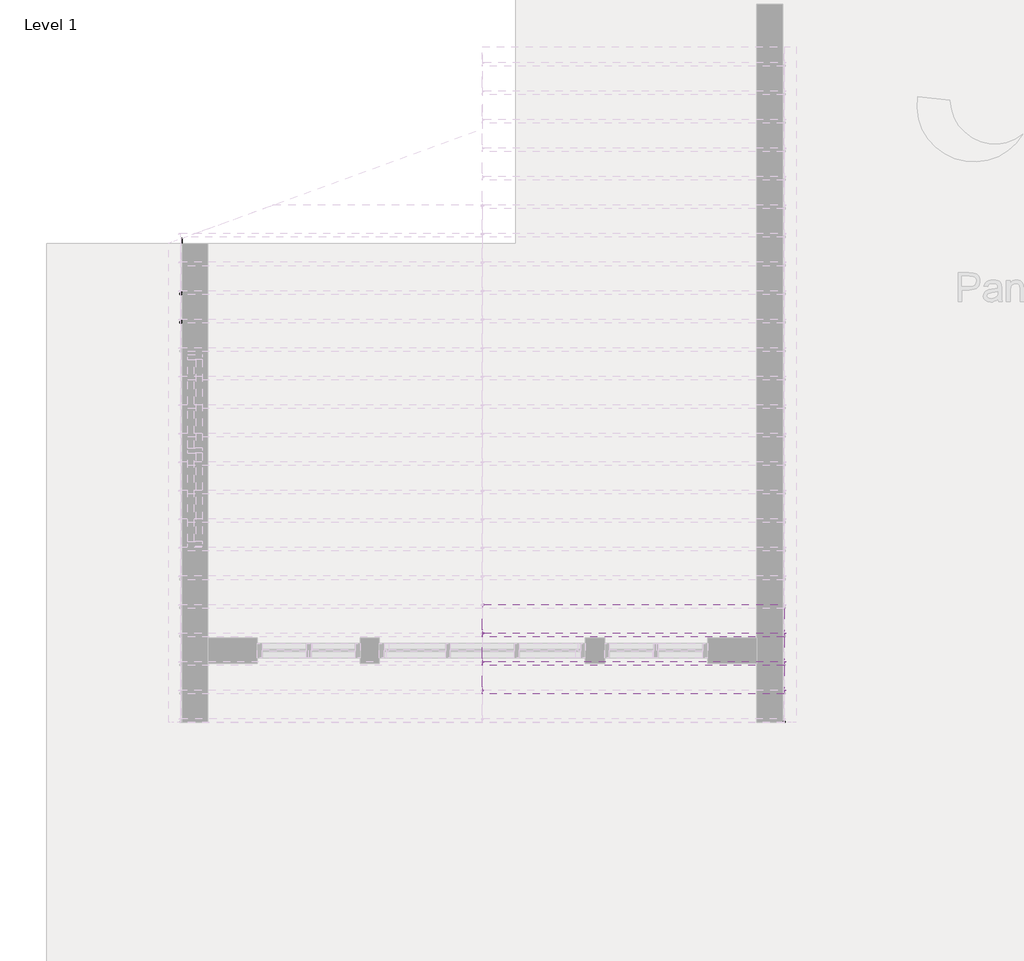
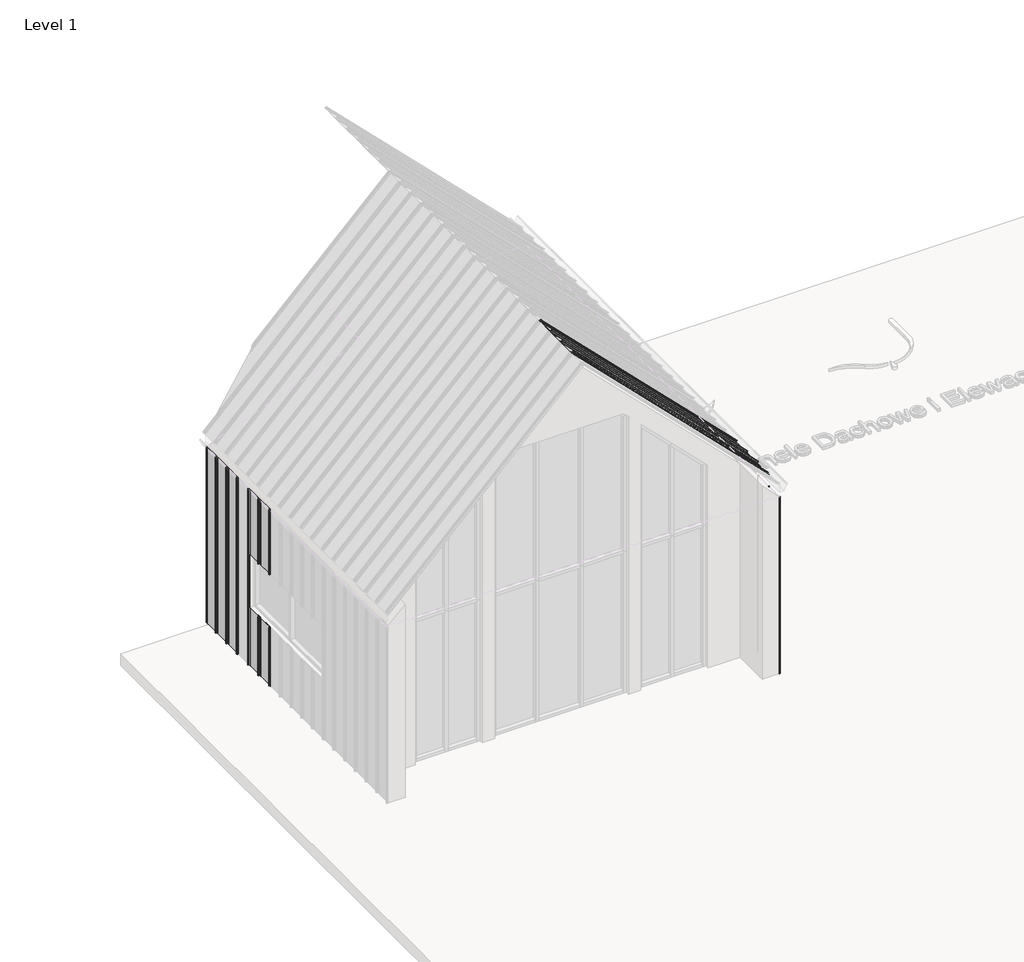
# One storey, part 5 of 24: 9 proxies.
"""IFC4 building model written with IfcOpenShell, lengths in millimetres."""

from ifc_helpers import new_model, si_unit, point, frame, frame_2d, origin, place, context, project, spatial, polyline, circle_curve, trimmed, segment, composite_curve, outline, extrude, transform, mapped, element, save
from components import aqua_slim_1cb284e8, aqua_slim_27351003

model = new_model("IFC4")

# Units and contexts
model_context = context("Model", 3, world=origin())
ifc_project = project(units=[si_unit("LENGTHUNIT", "METRE", prefix="MILLI")], contexts=[model_context])

# Site, building, storey
site = spatial("IfcSite", under=ifc_project)
building = spatial("IfcBuilding", under=site)
storey = spatial("IfcBuildingStorey", under=building, Name="Level 1", Elevation=0.0)

# Proxies
placement = place(None, origin())
element("IfcBuildingElementProxy", 1, Name="AQUAPLAST - Panel Dachowy i Elewacyjny Aqua Slim : Aqua Slim", ObjectType="AQUAPLAST - Panel Dachowy i Elewacyjny Aqua Slim : Aqua Slim", at=placement, inside=storey, context=model_context, shape_type="SweptSolid", body=[
    extrude(outline(polyline([(0.0, 227.2000503), (4454.0, 227.2000503), (4454.0, 0.0), (0.0, 0.0), (0.0, 227.2000503)])), frame((-5286.5167864, 9035.4302375, 6945.4435021), z_axis=(0.7071067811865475, 0.0, 0.7071067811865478), x_axis=(0.7071067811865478, 0.0, -0.7071067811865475)), (0.0, 0.0, 1.0), 0.8),
    extrude(outline(composite_curve([segment(polyline([(1.6, -36.6), (0.8, -40.1), (0.0, -40.1), (0.8000601, -36.6), (0.8000601, -12.7000752)]), True, "CONTINUOUS"), segment(trimmed(circle_curve(frame_2d((1.2999699, -12.7000752)), 0.4999098), [point((0.8000601, -12.7000752))], [point((1.2999699, -12.2001654))], False, "CARTESIAN"), True, "CONTINUOUS"), segment(polyline([(1.2999699, -12.2001654), (23.7003195, -12.2001654)]), True, "CONTINUOUS"), segment(trimmed(circle_curve(frame_2d((23.7003195, -11.6998422)), 0.5003233), [point((23.7003195, -12.2001654))], [point((24.2006428, -11.6998422))], True, "CARTESIAN"), True, "CONTINUOUS"), segment(polyline([(24.2006428, -11.6998422), (24.2006428, -1.2033228)]), True, "CONTINUOUS"), segment(trimmed(circle_curve(frame_2d((23.6993591, -1.2033228)), 0.5012837), [point((24.2006428, -1.2033228))], [point((23.6993591, -0.7020391))], True, "CARTESIAN"), True, "CONTINUOUS"), segment(polyline([(23.6993591, -0.7020391), (9.7850119, -0.7020391)]), True, "CONTINUOUS"), segment(trimmed(circle_curve(frame_2d((9.7850119, -1.6460516)), 0.9440125), [point((9.7850119, -0.7020391))], [point((8.9478642, -1.2097679))], True, "CARTESIAN"), True, "CONTINUOUS"), segment(trimmed(circle_curve(frame_2d((5.4137845, -0.6808077)), 3.5734462), [point((8.9478642, -1.2097679))], [point((1.8403383, -0.6808077))], False, "CARTESIAN"), True, "CONTINUOUS"), segment(polyline([(1.8403383, -0.6808077), (2.6405793, -0.6808077)]), True, "CONTINUOUS"), segment(trimmed(circle_curve(frame_2d((5.3847864, -0.6808077)), 2.7442071), [point((2.6405793, -0.6808077))], [point((8.1289934, -0.6808077))], True, "CARTESIAN"), True, "CONTINUOUS"), segment(trimmed(circle_curve(frame_2d((8.8039224, -0.6749544)), 0.6749543), [point((8.1289934, -0.6808077))], [point((8.8039224, 0.0))], False, "CARTESIAN"), True, "CONTINUOUS"), segment(polyline([(8.8039224, 0.0), (24.5, 0.0)]), True, "CONTINUOUS"), segment(trimmed(circle_curve(frame_2d((24.5, -0.5)), 0.5), [point((24.5, 0.0))], [point((25.0, -0.5))], False, "CARTESIAN"), True, "CONTINUOUS"), segment(polyline([(25.0, -0.5), (25.0, -12.5)]), True, "CONTINUOUS"), segment(trimmed(circle_curve(frame_2d((24.5, -12.5)), 0.5), [point((25.0, -12.5))], [point((24.5, -13.0))], False, "CARTESIAN"), True, "CONTINUOUS"), segment(polyline([(24.5, -13.0), (2.1, -13.0)]), True, "CONTINUOUS"), segment(trimmed(circle_curve(frame_2d((2.1, -13.5)), 0.5), [point((2.1, -13.0))], [point((1.6, -13.5))], True, "CARTESIAN"), True, "CONTINUOUS"), segment(polyline([(1.6, -13.5), (1.6, -36.6)]), True, "CONTINUOUS")], self_intersect=False)), frame((-2137.063183, 9302.7302878, 3795.9898987), z_axis=(-0.7071067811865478, 0.0, 0.7071067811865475), x_axis=(0.7071067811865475, 0.0, 0.7071067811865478)), (0.0, 0.0, 1.0), 4454.0),
    extrude(outline(composite_curve([segment(polyline([(0.8, 0.0), (0.0, 0.0), (0.0, 30.3277327)]), True, "CONTINUOUS"), segment(trimmed(circle_curve(frame_2d((0.7400208, 30.3277327)), 0.7400208), [point((0.0, 30.3277327))], [point((0.6241817, 31.0586308))], False, "CARTESIAN"), True, "CONTINUOUS"), segment(polyline([(0.6241817, 31.0586308), (18.4803327, 33.8886302)]), True, "CONTINUOUS"), segment(trimmed(circle_curve(frame_2d((18.1818617, 35.771861)), 1.9067363), [point((18.4803327, 33.8886302))], [point((19.1352298, 37.4231431))], True, "CARTESIAN"), True, "CONTINUOUS"), segment(polyline([(19.1352298, 37.4231431), (11.8934079, 40.3349068)]), True, "CONTINUOUS"), segment(trimmed(circle_curve(frame_2d((11.2676679, 38.7786343)), 1.6773594), [point((11.8934079, 40.3349068))], [point((9.7513874, 39.4958707))], True, "CARTESIAN"), True, "CONTINUOUS"), segment(trimmed(circle_curve(frame_2d((5.5014361, 41.5061979)), 4.7014361), [point((9.7513874, 39.4958707))], [point((0.8, 41.5061979))], False, "CARTESIAN"), True, "CONTINUOUS"), segment(polyline([(0.8, 41.5061979), (0.8, 69.1999497), (0.0, 72.6999497), (0.8, 72.6999497), (1.6, 69.1999497), (1.6, 41.3470224)]), True, "CONTINUOUS"), segment(trimmed(circle_curve(frame_2d((5.4667311, 41.3470224)), 3.8667311), [point((1.6, 41.3470224))], [point((9.0024093, 39.7815866))], True, "CARTESIAN"), True, "CONTINUOUS"), segment(trimmed(circle_curve(frame_2d((11.2676679, 38.7786343)), 2.4773594), [point((9.0024093, 39.7815866))], [point((12.1941629, 41.0762236))], False, "CARTESIAN"), True, "CONTINUOUS"), segment(polyline([(12.1941629, 41.0762236), (19.5352299, 38.1159634)]), True, "CONTINUOUS"), segment(trimmed(circle_curve(frame_2d((18.1818617, 35.771861)), 2.7067363), [point((19.5352299, 38.1159634))], [point((18.7653554, 33.1287651))], False, "CARTESIAN"), True, "CONTINUOUS"), segment(polyline([(18.7653554, 33.1287651), (1.3501315, 30.0958084)]), True, "CONTINUOUS"), segment(trimmed(circle_curve(frame_2d((1.4640676, 29.441588)), 0.6640676), [point((1.3501315, 30.0958084))], [point((0.8, 29.441588))], True, "CARTESIAN"), True, "CONTINUOUS"), segment(polyline([(0.8, 29.441588), (0.8, 0.0)]), True, "CONTINUOUS")], self_intersect=False)), frame((-2137.063183, 8962.7302878, 3795.9898987), z_axis=(-0.7071067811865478, 0.0, 0.7071067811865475), x_axis=(0.7071067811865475, 0.0, 0.7071067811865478)), (0.0, 0.0, 1.0), 4454.0),
])
element("IfcBuildingElementProxy", 2, Name="AQUAPLAST - Panel Dachowy i Elewacyjny Aqua Slim : Aqua Slim", ObjectType="AQUAPLAST - Panel Dachowy i Elewacyjny Aqua Slim : Aqua Slim", at=placement, inside=storey, context=model_context, shape_type="SweptSolid", body=[
    extrude(outline(polyline([(0.0, 227.2000503), (4454.0, 227.2000503), (4454.0, 0.0), (0.0, 0.0), (0.0, 227.2000503)])), frame((-5286.5167864, 9333.4302375, 6945.4435021), z_axis=(0.7071067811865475, 0.0, 0.7071067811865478), x_axis=(0.7071067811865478, 0.0, -0.7071067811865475)), (0.0, 0.0, 1.0), 0.8),
    extrude(outline(composite_curve([segment(polyline([(1.6, -36.6), (0.8, -40.1), (0.0, -40.1), (0.8000601, -36.6), (0.8000601, -12.7000752)]), True, "CONTINUOUS"), segment(trimmed(circle_curve(frame_2d((1.2999699, -12.7000752)), 0.4999098), [point((0.8000601, -12.7000752))], [point((1.2999699, -12.2001654))], False, "CARTESIAN"), True, "CONTINUOUS"), segment(polyline([(1.2999699, -12.2001654), (23.7003195, -12.2001654)]), True, "CONTINUOUS"), segment(trimmed(circle_curve(frame_2d((23.7003195, -11.6998422)), 0.5003233), [point((23.7003195, -12.2001654))], [point((24.2006428, -11.6998422))], True, "CARTESIAN"), True, "CONTINUOUS"), segment(polyline([(24.2006428, -11.6998422), (24.2006428, -1.2033228)]), True, "CONTINUOUS"), segment(trimmed(circle_curve(frame_2d((23.6993591, -1.2033228)), 0.5012837), [point((24.2006428, -1.2033228))], [point((23.6993591, -0.7020391))], True, "CARTESIAN"), True, "CONTINUOUS"), segment(polyline([(23.6993591, -0.7020391), (9.7850119, -0.7020391)]), True, "CONTINUOUS"), segment(trimmed(circle_curve(frame_2d((9.7850119, -1.6460516)), 0.9440125), [point((9.7850119, -0.7020391))], [point((8.9478642, -1.2097679))], True, "CARTESIAN"), True, "CONTINUOUS"), segment(trimmed(circle_curve(frame_2d((5.4137845, -0.6808077)), 3.5734462), [point((8.9478642, -1.2097679))], [point((1.8403383, -0.6808077))], False, "CARTESIAN"), True, "CONTINUOUS"), segment(polyline([(1.8403383, -0.6808077), (2.6405793, -0.6808077)]), True, "CONTINUOUS"), segment(trimmed(circle_curve(frame_2d((5.3847864, -0.6808077)), 2.7442071), [point((2.6405793, -0.6808077))], [point((8.1289934, -0.6808077))], True, "CARTESIAN"), True, "CONTINUOUS"), segment(trimmed(circle_curve(frame_2d((8.8039224, -0.6749544)), 0.6749543), [point((8.1289934, -0.6808077))], [point((8.8039224, 0.0))], False, "CARTESIAN"), True, "CONTINUOUS"), segment(polyline([(8.8039224, 0.0), (24.5, 0.0)]), True, "CONTINUOUS"), segment(trimmed(circle_curve(frame_2d((24.5, -0.5)), 0.5), [point((24.5, 0.0))], [point((25.0, -0.5))], False, "CARTESIAN"), True, "CONTINUOUS"), segment(polyline([(25.0, -0.5), (25.0, -12.5)]), True, "CONTINUOUS"), segment(trimmed(circle_curve(frame_2d((24.5, -12.5)), 0.5), [point((25.0, -12.5))], [point((24.5, -13.0))], False, "CARTESIAN"), True, "CONTINUOUS"), segment(polyline([(24.5, -13.0), (2.1, -13.0)]), True, "CONTINUOUS"), segment(trimmed(circle_curve(frame_2d((2.1, -13.5)), 0.5), [point((2.1, -13.0))], [point((1.6, -13.5))], True, "CARTESIAN"), True, "CONTINUOUS"), segment(polyline([(1.6, -13.5), (1.6, -36.6)]), True, "CONTINUOUS")], self_intersect=False)), frame((-2137.063183, 9600.7302878, 3795.9898987), z_axis=(-0.7071067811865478, 0.0, 0.7071067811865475), x_axis=(0.7071067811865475, 0.0, 0.7071067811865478)), (0.0, 0.0, 1.0), 4454.0),
    extrude(outline(composite_curve([segment(polyline([(0.8, 0.0), (0.0, 0.0), (0.0, 30.3277327)]), True, "CONTINUOUS"), segment(trimmed(circle_curve(frame_2d((0.7400208, 30.3277327)), 0.7400208), [point((0.0, 30.3277327))], [point((0.6241817, 31.0586308))], False, "CARTESIAN"), True, "CONTINUOUS"), segment(polyline([(0.6241817, 31.0586308), (18.4803327, 33.8886302)]), True, "CONTINUOUS"), segment(trimmed(circle_curve(frame_2d((18.1818617, 35.771861)), 1.9067363), [point((18.4803327, 33.8886302))], [point((19.1352298, 37.4231431))], True, "CARTESIAN"), True, "CONTINUOUS"), segment(polyline([(19.1352298, 37.4231431), (11.8934079, 40.3349068)]), True, "CONTINUOUS"), segment(trimmed(circle_curve(frame_2d((11.2676679, 38.7786343)), 1.6773594), [point((11.8934079, 40.3349068))], [point((9.7513874, 39.4958707))], True, "CARTESIAN"), True, "CONTINUOUS"), segment(trimmed(circle_curve(frame_2d((5.5014361, 41.5061979)), 4.7014361), [point((9.7513874, 39.4958707))], [point((0.8, 41.5061979))], False, "CARTESIAN"), True, "CONTINUOUS"), segment(polyline([(0.8, 41.5061979), (0.8, 69.1999497), (0.0, 72.6999497), (0.8, 72.6999497), (1.6, 69.1999497), (1.6, 41.3470224)]), True, "CONTINUOUS"), segment(trimmed(circle_curve(frame_2d((5.4667311, 41.3470224)), 3.8667311), [point((1.6, 41.3470224))], [point((9.0024093, 39.7815866))], True, "CARTESIAN"), True, "CONTINUOUS"), segment(trimmed(circle_curve(frame_2d((11.2676679, 38.7786343)), 2.4773594), [point((9.0024093, 39.7815866))], [point((12.1941629, 41.0762236))], False, "CARTESIAN"), True, "CONTINUOUS"), segment(polyline([(12.1941629, 41.0762236), (19.5352299, 38.1159634)]), True, "CONTINUOUS"), segment(trimmed(circle_curve(frame_2d((18.1818617, 35.771861)), 2.7067363), [point((19.5352299, 38.1159634))], [point((18.7653554, 33.1287651))], False, "CARTESIAN"), True, "CONTINUOUS"), segment(polyline([(18.7653554, 33.1287651), (1.3501315, 30.0958084)]), True, "CONTINUOUS"), segment(trimmed(circle_curve(frame_2d((1.4640676, 29.441588)), 0.6640676), [point((1.3501315, 30.0958084))], [point((0.8, 29.441588))], True, "CARTESIAN"), True, "CONTINUOUS"), segment(polyline([(0.8, 29.441588), (0.8, 0.0)]), True, "CONTINUOUS")], self_intersect=False)), frame((-2137.063183, 9260.7302878, 3795.9898987), z_axis=(-0.7071067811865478, 0.0, 0.7071067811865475), x_axis=(0.7071067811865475, 0.0, 0.7071067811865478)), (0.0, 0.0, 1.0), 4454.0),
])
element("IfcBuildingElementProxy", 3, Name="AQUAPLAST - Panel Dachowy i Elewacyjny Aqua Slim : Aqua Slim", ObjectType="AQUAPLAST - Panel Dachowy i Elewacyjny Aqua Slim : Aqua Slim", at=placement, inside=storey, context=model_context, shape_type="SweptSolid", body=[
    extrude(outline(polyline([(0.0, 227.2000503), (4454.0, 227.2000503), (4454.0, 0.0), (0.0, 0.0), (0.0, 227.2000503)])), frame((-5286.5167864, 9631.4302375, 6945.4435021), z_axis=(0.7071067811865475, 0.0, 0.7071067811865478), x_axis=(0.7071067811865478, 0.0, -0.7071067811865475)), (0.0, 0.0, 1.0), 0.8),
    extrude(outline(composite_curve([segment(polyline([(1.6, -36.6), (0.8, -40.1), (0.0, -40.1), (0.8000601, -36.6), (0.8000601, -12.7000752)]), True, "CONTINUOUS"), segment(trimmed(circle_curve(frame_2d((1.2999699, -12.7000752)), 0.4999098), [point((0.8000601, -12.7000752))], [point((1.2999699, -12.2001654))], False, "CARTESIAN"), True, "CONTINUOUS"), segment(polyline([(1.2999699, -12.2001654), (23.7003195, -12.2001654)]), True, "CONTINUOUS"), segment(trimmed(circle_curve(frame_2d((23.7003195, -11.6998422)), 0.5003233), [point((23.7003195, -12.2001654))], [point((24.2006428, -11.6998422))], True, "CARTESIAN"), True, "CONTINUOUS"), segment(polyline([(24.2006428, -11.6998422), (24.2006428, -1.2033228)]), True, "CONTINUOUS"), segment(trimmed(circle_curve(frame_2d((23.6993591, -1.2033228)), 0.5012837), [point((24.2006428, -1.2033228))], [point((23.6993591, -0.7020391))], True, "CARTESIAN"), True, "CONTINUOUS"), segment(polyline([(23.6993591, -0.7020391), (9.7850119, -0.7020391)]), True, "CONTINUOUS"), segment(trimmed(circle_curve(frame_2d((9.7850119, -1.6460516)), 0.9440125), [point((9.7850119, -0.7020391))], [point((8.9478642, -1.2097679))], True, "CARTESIAN"), True, "CONTINUOUS"), segment(trimmed(circle_curve(frame_2d((5.4137845, -0.6808077)), 3.5734462), [point((8.9478642, -1.2097679))], [point((1.8403383, -0.6808077))], False, "CARTESIAN"), True, "CONTINUOUS"), segment(polyline([(1.8403383, -0.6808077), (2.6405793, -0.6808077)]), True, "CONTINUOUS"), segment(trimmed(circle_curve(frame_2d((5.3847864, -0.6808077)), 2.7442071), [point((2.6405793, -0.6808077))], [point((8.1289934, -0.6808077))], True, "CARTESIAN"), True, "CONTINUOUS"), segment(trimmed(circle_curve(frame_2d((8.8039224, -0.6749544)), 0.6749543), [point((8.1289934, -0.6808077))], [point((8.8039224, 0.0))], False, "CARTESIAN"), True, "CONTINUOUS"), segment(polyline([(8.8039224, 0.0), (24.5, 0.0)]), True, "CONTINUOUS"), segment(trimmed(circle_curve(frame_2d((24.5, -0.5)), 0.5), [point((24.5, 0.0))], [point((25.0, -0.5))], False, "CARTESIAN"), True, "CONTINUOUS"), segment(polyline([(25.0, -0.5), (25.0, -12.5)]), True, "CONTINUOUS"), segment(trimmed(circle_curve(frame_2d((24.5, -12.5)), 0.5), [point((25.0, -12.5))], [point((24.5, -13.0))], False, "CARTESIAN"), True, "CONTINUOUS"), segment(polyline([(24.5, -13.0), (2.1, -13.0)]), True, "CONTINUOUS"), segment(trimmed(circle_curve(frame_2d((2.1, -13.5)), 0.5), [point((2.1, -13.0))], [point((1.6, -13.5))], True, "CARTESIAN"), True, "CONTINUOUS"), segment(polyline([(1.6, -13.5), (1.6, -36.6)]), True, "CONTINUOUS")], self_intersect=False)), frame((-2137.063183, 9898.7302878, 3795.9898987), z_axis=(-0.7071067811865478, 0.0, 0.7071067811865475), x_axis=(0.7071067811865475, 0.0, 0.7071067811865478)), (0.0, 0.0, 1.0), 4454.0),
    extrude(outline(composite_curve([segment(polyline([(0.8, 0.0), (0.0, 0.0), (0.0, 30.3277327)]), True, "CONTINUOUS"), segment(trimmed(circle_curve(frame_2d((0.7400208, 30.3277327)), 0.7400208), [point((0.0, 30.3277327))], [point((0.6241817, 31.0586308))], False, "CARTESIAN"), True, "CONTINUOUS"), segment(polyline([(0.6241817, 31.0586308), (18.4803327, 33.8886302)]), True, "CONTINUOUS"), segment(trimmed(circle_curve(frame_2d((18.1818617, 35.771861)), 1.9067363), [point((18.4803327, 33.8886302))], [point((19.1352298, 37.4231431))], True, "CARTESIAN"), True, "CONTINUOUS"), segment(polyline([(19.1352298, 37.4231431), (11.8934079, 40.3349068)]), True, "CONTINUOUS"), segment(trimmed(circle_curve(frame_2d((11.2676679, 38.7786343)), 1.6773594), [point((11.8934079, 40.3349068))], [point((9.7513874, 39.4958707))], True, "CARTESIAN"), True, "CONTINUOUS"), segment(trimmed(circle_curve(frame_2d((5.5014361, 41.5061979)), 4.7014361), [point((9.7513874, 39.4958707))], [point((0.8, 41.5061979))], False, "CARTESIAN"), True, "CONTINUOUS"), segment(polyline([(0.8, 41.5061979), (0.8, 69.1999497), (0.0, 72.6999497), (0.8, 72.6999497), (1.6, 69.1999497), (1.6, 41.3470224)]), True, "CONTINUOUS"), segment(trimmed(circle_curve(frame_2d((5.4667311, 41.3470224)), 3.8667311), [point((1.6, 41.3470224))], [point((9.0024093, 39.7815866))], True, "CARTESIAN"), True, "CONTINUOUS"), segment(trimmed(circle_curve(frame_2d((11.2676679, 38.7786343)), 2.4773594), [point((9.0024093, 39.7815866))], [point((12.1941629, 41.0762236))], False, "CARTESIAN"), True, "CONTINUOUS"), segment(polyline([(12.1941629, 41.0762236), (19.5352299, 38.1159634)]), True, "CONTINUOUS"), segment(trimmed(circle_curve(frame_2d((18.1818617, 35.771861)), 2.7067363), [point((19.5352299, 38.1159634))], [point((18.7653554, 33.1287651))], False, "CARTESIAN"), True, "CONTINUOUS"), segment(polyline([(18.7653554, 33.1287651), (1.3501315, 30.0958084)]), True, "CONTINUOUS"), segment(trimmed(circle_curve(frame_2d((1.4640676, 29.441588)), 0.6640676), [point((1.3501315, 30.0958084))], [point((0.8, 29.441588))], True, "CARTESIAN"), True, "CONTINUOUS"), segment(polyline([(0.8, 29.441588), (0.8, 0.0)]), True, "CONTINUOUS")], self_intersect=False)), frame((-2137.063183, 9558.7302878, 3795.9898987), z_axis=(-0.7071067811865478, 0.0, 0.7071067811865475), x_axis=(0.7071067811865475, 0.0, 0.7071067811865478)), (0.0, 0.0, 1.0), 4454.0),
])
element("IfcBuildingElementProxy", 4, Name="AQUAPLAST - Panel Dachowy i Elewacyjny Aqua Slim : Aqua Slim", ObjectType="AQUAPLAST - Panel Dachowy i Elewacyjny Aqua Slim : Aqua Slim", at=placement, inside=storey, context=model_context, shape_type="SweptSolid", body=[
    extrude(outline(polyline([(-8422.863183, 11982.1494801), (-8422.863183, 12209.3495304), (-8422.063183, 12209.3495304), (-8422.063183, 11982.1494801), (-8422.863183, 11982.1494801)])), frame((0.0, 0.0, 2498.0), z_axis=(0.0, 0.0, 1.0), x_axis=(1.0, 0.0, 0.0)), (0.0, 0.0, 1.0), 1099.0),
    extrude(outline(polyline([(-8422.863183, 11982.1494801), (-8422.863183, 12209.3495304), (-8422.063183, 12209.3495304), (-8422.063183, 11982.1494801), (-8422.863183, 11982.1494801)])), frame((0.0, 0.0, 600.0), z_axis=(0.0, 0.0, 1.0), x_axis=(1.0, 0.0, 0.0)), (0.0, 0.0, 1.0), 998.0),
    extrude(outline(composite_curve([segment(polyline([(-8422.063183, 11982.1494801), (-8422.8632432, 11978.6494801), (-8422.8632432, 11954.7495553)]), True, "CONTINUOUS"), segment(trimmed(circle_curve(frame_2d((-8423.363153, 11954.7495553)), 0.4999098), [point((-8422.8632432, 11954.7495553))], [point((-8423.363153, 11954.2496455))], False, "CARTESIAN"), True, "CONTINUOUS"), segment(polyline([(-8423.363153, 11954.2496455), (-8445.7635025, 11954.2496455)]), True, "CONTINUOUS"), segment(trimmed(circle_curve(frame_2d((-8445.7635025, 11953.7493222)), 0.5003233), [point((-8445.7635025, 11954.2496455))], [point((-8446.2638258, 11953.7493222))], True, "CARTESIAN"), True, "CONTINUOUS"), segment(polyline([(-8446.2638258, 11953.7493222), (-8446.2638258, 11943.2528028)]), True, "CONTINUOUS"), segment(trimmed(circle_curve(frame_2d((-8445.7625421, 11943.2528028)), 0.5012837), [point((-8446.2638258, 11943.2528028))], [point((-8445.7625421, 11942.7515191))], True, "CARTESIAN"), True, "CONTINUOUS"), segment(polyline([(-8445.7625421, 11942.7515191), (-8431.8481949, 11942.7515191)]), True, "CONTINUOUS"), segment(trimmed(circle_curve(frame_2d((-8431.8481949, 11943.6955317)), 0.9440125), [point((-8431.8481949, 11942.7515191))], [point((-8431.0110473, 11943.259248))], True, "CARTESIAN"), True, "CONTINUOUS"), segment(trimmed(circle_curve(frame_2d((-8427.4769676, 11942.7302878)), 3.5734462), [point((-8431.0110473, 11943.259248))], [point((-8423.9035214, 11942.7302878))], False, "CARTESIAN"), True, "CONTINUOUS"), segment(polyline([(-8423.9035214, 11942.7302878), (-8424.7037623, 11942.7302878)]), True, "CONTINUOUS"), segment(trimmed(circle_curve(frame_2d((-8427.4479694, 11942.7302878)), 2.7442071), [point((-8424.7037623, 11942.7302878))], [point((-8430.1921764, 11942.7302878))], True, "CARTESIAN"), True, "CONTINUOUS"), segment(trimmed(circle_curve(frame_2d((-8430.8671054, 11942.7244344)), 0.6749543), [point((-8430.1921764, 11942.7302878))], [point((-8430.8671054, 11942.0494801))], False, "CARTESIAN"), True, "CONTINUOUS"), segment(polyline([(-8430.8671054, 11942.0494801), (-8446.563183, 11942.0494801)]), True, "CONTINUOUS"), segment(trimmed(circle_curve(frame_2d((-8446.563183, 11942.5494801)), 0.5), [point((-8446.563183, 11942.0494801))], [point((-8447.063183, 11942.5494801))], False, "CARTESIAN"), True, "CONTINUOUS"), segment(polyline([(-8447.063183, 11942.5494801), (-8447.063183, 11954.5494801)]), True, "CONTINUOUS"), segment(trimmed(circle_curve(frame_2d((-8446.563183, 11954.5494801)), 0.5), [point((-8447.063183, 11954.5494801))], [point((-8446.563183, 11955.0494801))], False, "CARTESIAN"), True, "CONTINUOUS"), segment(polyline([(-8446.563183, 11955.0494801), (-8424.163183, 11955.0494801)]), True, "CONTINUOUS"), segment(trimmed(circle_curve(frame_2d((-8424.163183, 11955.5494801)), 0.5), [point((-8424.163183, 11955.0494801))], [point((-8423.663183, 11955.5494801))], True, "CARTESIAN"), True, "CONTINUOUS"), segment(polyline([(-8423.663183, 11955.5494801), (-8423.663183, 11978.6494801), (-8422.863183, 11982.1494801), (-8422.063183, 11982.1494801)]), True, "CONTINUOUS")], self_intersect=False)), frame((0.0, 0.0, 2498.0), z_axis=(0.0, 0.0, 1.0), x_axis=(1.0, 0.0, 0.0)), (0.0, 0.0, 1.0), 1099.0),
    extrude(outline(composite_curve([segment(polyline([(-8423.663183, 11978.6494801), (-8422.863183, 11982.1494801), (-8422.063183, 11982.1494801), (-8422.8632432, 11978.6494801), (-8422.8632432, 11954.7495553)]), True, "CONTINUOUS"), segment(trimmed(circle_curve(frame_2d((-8423.363153, 11954.7495553)), 0.4999098), [point((-8422.8632432, 11954.7495553))], [point((-8423.363153, 11954.2496455))], False, "CARTESIAN"), True, "CONTINUOUS"), segment(polyline([(-8423.363153, 11954.2496455), (-8445.7635025, 11954.2496455)]), True, "CONTINUOUS"), segment(trimmed(circle_curve(frame_2d((-8445.7635025, 11953.7493222)), 0.5003233), [point((-8445.7635025, 11954.2496455))], [point((-8446.2638258, 11953.7493222))], True, "CARTESIAN"), True, "CONTINUOUS"), segment(polyline([(-8446.2638258, 11953.7493222), (-8446.2638258, 11943.2528028)]), True, "CONTINUOUS"), segment(trimmed(circle_curve(frame_2d((-8445.7625421, 11943.2528028)), 0.5012837), [point((-8446.2638258, 11943.2528028))], [point((-8445.7625421, 11942.7515191))], True, "CARTESIAN"), True, "CONTINUOUS"), segment(polyline([(-8445.7625421, 11942.7515191), (-8431.8481949, 11942.7515191)]), True, "CONTINUOUS"), segment(trimmed(circle_curve(frame_2d((-8431.8481949, 11943.6955317)), 0.9440125), [point((-8431.8481949, 11942.7515191))], [point((-8431.0110473, 11943.259248))], True, "CARTESIAN"), True, "CONTINUOUS"), segment(trimmed(circle_curve(frame_2d((-8427.4769676, 11942.7302878)), 3.5734462), [point((-8431.0110473, 11943.259248))], [point((-8423.9035214, 11942.7302878))], False, "CARTESIAN"), True, "CONTINUOUS"), segment(polyline([(-8423.9035214, 11942.7302878), (-8424.7037623, 11942.7302878)]), True, "CONTINUOUS"), segment(trimmed(circle_curve(frame_2d((-8427.4479694, 11942.7302878)), 2.7442071), [point((-8424.7037623, 11942.7302878))], [point((-8430.1921764, 11942.7302878))], True, "CARTESIAN"), True, "CONTINUOUS"), segment(trimmed(circle_curve(frame_2d((-8430.8671054, 11942.7244344)), 0.6749543), [point((-8430.1921764, 11942.7302878))], [point((-8430.8671054, 11942.0494801))], False, "CARTESIAN"), True, "CONTINUOUS"), segment(polyline([(-8430.8671054, 11942.0494801), (-8446.563183, 11942.0494801)]), True, "CONTINUOUS"), segment(trimmed(circle_curve(frame_2d((-8446.563183, 11942.5494801)), 0.5), [point((-8446.563183, 11942.0494801))], [point((-8447.063183, 11942.5494801))], False, "CARTESIAN"), True, "CONTINUOUS"), segment(polyline([(-8447.063183, 11942.5494801), (-8447.063183, 11954.5494801)]), True, "CONTINUOUS"), segment(trimmed(circle_curve(frame_2d((-8446.563183, 11954.5494801)), 0.5), [point((-8447.063183, 11954.5494801))], [point((-8446.563183, 11955.0494801))], False, "CARTESIAN"), True, "CONTINUOUS"), segment(polyline([(-8446.563183, 11955.0494801), (-8424.163183, 11955.0494801)]), True, "CONTINUOUS"), segment(trimmed(circle_curve(frame_2d((-8424.163183, 11955.5494801)), 0.5), [point((-8424.163183, 11955.0494801))], [point((-8423.663183, 11955.5494801))], True, "CARTESIAN"), True, "CONTINUOUS"), segment(polyline([(-8423.663183, 11955.5494801), (-8423.663183, 11978.6494801)]), True, "CONTINUOUS")], self_intersect=False)), frame((0.0, 0.0, 600.0), z_axis=(0.0, 0.0, 1.0), x_axis=(1.0, 0.0, 0.0)), (0.0, 0.0, 1.0), 998.0),
    extrude(outline(composite_curve([segment(polyline([(-8422.863183, 12282.0494801), (-8422.063183, 12282.0494801), (-8422.063183, 12251.7217474)]), True, "CONTINUOUS"), segment(trimmed(circle_curve(frame_2d((-8422.8032039, 12251.7217474)), 0.7400208), [point((-8422.063183, 12251.7217474))], [point((-8422.6873647, 12250.9908492))], False, "CARTESIAN"), True, "CONTINUOUS"), segment(polyline([(-8422.6873647, 12250.9908492), (-8440.5435157, 12248.1608498)]), True, "CONTINUOUS"), segment(trimmed(circle_curve(frame_2d((-8440.2450447, 12246.277619)), 1.9067363), [point((-8440.5435157, 12248.1608498))], [point((-8441.1984129, 12244.626337))], True, "CARTESIAN"), True, "CONTINUOUS"), segment(polyline([(-8441.1984129, 12244.626337), (-8433.9565909, 12241.7145733)]), True, "CONTINUOUS"), segment(trimmed(circle_curve(frame_2d((-8433.3308509, 12243.2708458)), 1.6773594), [point((-8433.9565909, 12241.7145733))], [point((-8431.8145704, 12242.5536094))], True, "CARTESIAN"), True, "CONTINUOUS"), segment(trimmed(circle_curve(frame_2d((-8427.5646191, 12240.5432822)), 4.7014361), [point((-8431.8145704, 12242.5536094))], [point((-8422.863183, 12240.5432822))], False, "CARTESIAN"), True, "CONTINUOUS"), segment(polyline([(-8422.863183, 12240.5432822), (-8422.863183, 12212.8495304), (-8422.063183, 12209.3495304), (-8422.863183, 12209.3495304), (-8423.663183, 12212.8495304), (-8423.663183, 12240.7024576)]), True, "CONTINUOUS"), segment(trimmed(circle_curve(frame_2d((-8427.5299142, 12240.7024576)), 3.8667311), [point((-8423.663183, 12240.7024576))], [point((-8431.0655924, 12242.2678934))], True, "CARTESIAN"), True, "CONTINUOUS"), segment(trimmed(circle_curve(frame_2d((-8433.3308509, 12243.2708458)), 2.4773594), [point((-8431.0655924, 12242.2678934))], [point((-8434.257346, 12240.9732565))], False, "CARTESIAN"), True, "CONTINUOUS"), segment(polyline([(-8434.257346, 12240.9732565), (-8441.5984129, 12243.9335166)]), True, "CONTINUOUS"), segment(trimmed(circle_curve(frame_2d((-8440.2450447, 12246.277619)), 2.7067363), [point((-8441.5984129, 12243.9335166))], [point((-8440.8285384, 12248.920715))], False, "CARTESIAN"), True, "CONTINUOUS"), segment(polyline([(-8440.8285384, 12248.920715), (-8423.4133146, 12251.9536717)]), True, "CONTINUOUS"), segment(trimmed(circle_curve(frame_2d((-8423.5272506, 12252.6078921)), 0.6640676), [point((-8423.4133146, 12251.9536717))], [point((-8422.863183, 12252.6078921))], True, "CARTESIAN"), True, "CONTINUOUS"), segment(polyline([(-8422.863183, 12252.6078921), (-8422.863183, 12282.0494801)]), True, "CONTINUOUS")], self_intersect=False)), frame((0.0, 0.0, 2498.0), z_axis=(0.0, 0.0, 1.0), x_axis=(1.0, 0.0, 0.0)), (0.0, 0.0, 1.0), 1099.0),
    extrude(outline(composite_curve([segment(polyline([(-8422.863183, 12282.0494801), (-8422.063183, 12282.0494801), (-8422.063183, 12251.7217474)]), True, "CONTINUOUS"), segment(trimmed(circle_curve(frame_2d((-8422.8032039, 12251.7217474)), 0.7400208), [point((-8422.063183, 12251.7217474))], [point((-8422.6873647, 12250.9908492))], False, "CARTESIAN"), True, "CONTINUOUS"), segment(polyline([(-8422.6873647, 12250.9908492), (-8440.5435157, 12248.1608498)]), True, "CONTINUOUS"), segment(trimmed(circle_curve(frame_2d((-8440.2450447, 12246.277619)), 1.9067363), [point((-8440.5435157, 12248.1608498))], [point((-8441.1984129, 12244.626337))], True, "CARTESIAN"), True, "CONTINUOUS"), segment(polyline([(-8441.1984129, 12244.626337), (-8433.9565909, 12241.7145733)]), True, "CONTINUOUS"), segment(trimmed(circle_curve(frame_2d((-8433.3308509, 12243.2708458)), 1.6773594), [point((-8433.9565909, 12241.7145733))], [point((-8431.8145704, 12242.5536094))], True, "CARTESIAN"), True, "CONTINUOUS"), segment(trimmed(circle_curve(frame_2d((-8427.5646191, 12240.5432822)), 4.7014361), [point((-8431.8145704, 12242.5536094))], [point((-8422.863183, 12240.5432822))], False, "CARTESIAN"), True, "CONTINUOUS"), segment(polyline([(-8422.863183, 12240.5432822), (-8422.863183, 12212.8495304), (-8422.063183, 12209.3495304), (-8422.863183, 12209.3495304), (-8423.663183, 12212.8495304), (-8423.663183, 12240.7024576)]), True, "CONTINUOUS"), segment(trimmed(circle_curve(frame_2d((-8427.5299142, 12240.7024576)), 3.8667311), [point((-8423.663183, 12240.7024576))], [point((-8431.0655924, 12242.2678934))], True, "CARTESIAN"), True, "CONTINUOUS"), segment(trimmed(circle_curve(frame_2d((-8433.3308509, 12243.2708458)), 2.4773594), [point((-8431.0655924, 12242.2678934))], [point((-8434.257346, 12240.9732565))], False, "CARTESIAN"), True, "CONTINUOUS"), segment(polyline([(-8434.257346, 12240.9732565), (-8441.5984129, 12243.9335166)]), True, "CONTINUOUS"), segment(trimmed(circle_curve(frame_2d((-8440.2450447, 12246.277619)), 2.7067363), [point((-8441.5984129, 12243.9335166))], [point((-8440.8285384, 12248.920715))], False, "CARTESIAN"), True, "CONTINUOUS"), segment(polyline([(-8440.8285384, 12248.920715), (-8423.4133146, 12251.9536717)]), True, "CONTINUOUS"), segment(trimmed(circle_curve(frame_2d((-8423.5272506, 12252.6078921)), 0.6640676), [point((-8423.4133146, 12251.9536717))], [point((-8422.863183, 12252.6078921))], True, "CARTESIAN"), True, "CONTINUOUS"), segment(polyline([(-8422.863183, 12252.6078921), (-8422.863183, 12282.0494801)]), True, "CONTINUOUS")], self_intersect=False)), frame((0.0, 0.0, 600.0), z_axis=(0.0, 0.0, 1.0), x_axis=(1.0, 0.0, 0.0)), (0.0, 0.0, 1.0), 998.0),
])
element("IfcBuildingElementProxy", 5, Name="AQUAPLAST - Panel Dachowy i Elewacyjny Aqua Slim : Aqua Slim", ObjectType="AQUAPLAST - Panel Dachowy i Elewacyjny Aqua Slim : Aqua Slim", at=placement, inside=storey, context=model_context, shape_type="SweptSolid", body=[
    extrude(outline(polyline([(12280.1494801, 3597.0), (12507.3495304, 3597.0), (12507.3495304, 600.0), (12280.1494801, 600.0), (12280.1494801, 1598.0), (12504.7302878, 1598.0), (12504.7302878, 2498.0), (12280.1494801, 2498.0), (12280.1494801, 3597.0)])), frame((-8422.863183, 0.0, 0.0), z_axis=(1.0, 0.0, 0.0), x_axis=(0.0, 1.0, 0.0)), (0.0, 0.0, 1.0), 0.8),
    extrude(outline(composite_curve([segment(polyline([(-8422.063183, 12280.1494801), (-8422.8632432, 12276.6494801), (-8422.8632432, 12252.7495553)]), True, "CONTINUOUS"), segment(trimmed(circle_curve(frame_2d((-8423.363153, 12252.7495553)), 0.4999098), [point((-8422.8632432, 12252.7495553))], [point((-8423.363153, 12252.2496455))], False, "CARTESIAN"), True, "CONTINUOUS"), segment(polyline([(-8423.363153, 12252.2496455), (-8445.7635025, 12252.2496455)]), True, "CONTINUOUS"), segment(trimmed(circle_curve(frame_2d((-8445.7635025, 12251.7493222)), 0.5003233), [point((-8445.7635025, 12252.2496455))], [point((-8446.2638258, 12251.7493222))], True, "CARTESIAN"), True, "CONTINUOUS"), segment(polyline([(-8446.2638258, 12251.7493222), (-8446.2638258, 12241.2528028)]), True, "CONTINUOUS"), segment(trimmed(circle_curve(frame_2d((-8445.7625421, 12241.2528028)), 0.5012837), [point((-8446.2638258, 12241.2528028))], [point((-8445.7625421, 12240.7515191))], True, "CARTESIAN"), True, "CONTINUOUS"), segment(polyline([(-8445.7625421, 12240.7515191), (-8431.8481949, 12240.7515191)]), True, "CONTINUOUS"), segment(trimmed(circle_curve(frame_2d((-8431.8481949, 12241.6955317)), 0.9440125), [point((-8431.8481949, 12240.7515191))], [point((-8431.0110473, 12241.259248))], True, "CARTESIAN"), True, "CONTINUOUS"), segment(trimmed(circle_curve(frame_2d((-8427.4769676, 12240.7302878)), 3.5734462), [point((-8431.0110473, 12241.259248))], [point((-8423.9035214, 12240.7302878))], False, "CARTESIAN"), True, "CONTINUOUS"), segment(polyline([(-8423.9035214, 12240.7302878), (-8424.7037623, 12240.7302878)]), True, "CONTINUOUS"), segment(trimmed(circle_curve(frame_2d((-8427.4479694, 12240.7302878)), 2.7442071), [point((-8424.7037623, 12240.7302878))], [point((-8430.1921764, 12240.7302878))], True, "CARTESIAN"), True, "CONTINUOUS"), segment(trimmed(circle_curve(frame_2d((-8430.8671054, 12240.7244344)), 0.6749543), [point((-8430.1921764, 12240.7302878))], [point((-8430.8671054, 12240.0494801))], False, "CARTESIAN"), True, "CONTINUOUS"), segment(polyline([(-8430.8671054, 12240.0494801), (-8446.563183, 12240.0494801)]), True, "CONTINUOUS"), segment(trimmed(circle_curve(frame_2d((-8446.563183, 12240.5494801)), 0.5), [point((-8446.563183, 12240.0494801))], [point((-8447.063183, 12240.5494801))], False, "CARTESIAN"), True, "CONTINUOUS"), segment(polyline([(-8447.063183, 12240.5494801), (-8447.063183, 12252.5494801)]), True, "CONTINUOUS"), segment(trimmed(circle_curve(frame_2d((-8446.563183, 12252.5494801)), 0.5), [point((-8447.063183, 12252.5494801))], [point((-8446.563183, 12253.0494801))], False, "CARTESIAN"), True, "CONTINUOUS"), segment(polyline([(-8446.563183, 12253.0494801), (-8424.163183, 12253.0494801)]), True, "CONTINUOUS"), segment(trimmed(circle_curve(frame_2d((-8424.163183, 12253.5494801)), 0.5), [point((-8424.163183, 12253.0494801))], [point((-8423.663183, 12253.5494801))], True, "CARTESIAN"), True, "CONTINUOUS"), segment(polyline([(-8423.663183, 12253.5494801), (-8423.663183, 12276.6494801), (-8422.863183, 12280.1494801), (-8422.063183, 12280.1494801)]), True, "CONTINUOUS")], self_intersect=False)), frame((0.0, 0.0, 2498.0), z_axis=(0.0, 0.0, 1.0), x_axis=(1.0, 0.0, 0.0)), (0.0, 0.0, 1.0), 1099.0),
    extrude(outline(composite_curve([segment(polyline([(-8423.663183, 12276.6494801), (-8422.863183, 12280.1494801), (-8422.063183, 12280.1494801), (-8422.8632432, 12276.6494801), (-8422.8632432, 12252.7495553)]), True, "CONTINUOUS"), segment(trimmed(circle_curve(frame_2d((-8423.363153, 12252.7495553)), 0.4999098), [point((-8422.8632432, 12252.7495553))], [point((-8423.363153, 12252.2496455))], False, "CARTESIAN"), True, "CONTINUOUS"), segment(polyline([(-8423.363153, 12252.2496455), (-8445.7635025, 12252.2496455)]), True, "CONTINUOUS"), segment(trimmed(circle_curve(frame_2d((-8445.7635025, 12251.7493222)), 0.5003233), [point((-8445.7635025, 12252.2496455))], [point((-8446.2638258, 12251.7493222))], True, "CARTESIAN"), True, "CONTINUOUS"), segment(polyline([(-8446.2638258, 12251.7493222), (-8446.2638258, 12241.2528028)]), True, "CONTINUOUS"), segment(trimmed(circle_curve(frame_2d((-8445.7625421, 12241.2528028)), 0.5012837), [point((-8446.2638258, 12241.2528028))], [point((-8445.7625421, 12240.7515191))], True, "CARTESIAN"), True, "CONTINUOUS"), segment(polyline([(-8445.7625421, 12240.7515191), (-8431.8481949, 12240.7515191)]), True, "CONTINUOUS"), segment(trimmed(circle_curve(frame_2d((-8431.8481949, 12241.6955317)), 0.9440125), [point((-8431.8481949, 12240.7515191))], [point((-8431.0110473, 12241.259248))], True, "CARTESIAN"), True, "CONTINUOUS"), segment(trimmed(circle_curve(frame_2d((-8427.4769676, 12240.7302878)), 3.5734462), [point((-8431.0110473, 12241.259248))], [point((-8423.9035214, 12240.7302878))], False, "CARTESIAN"), True, "CONTINUOUS"), segment(polyline([(-8423.9035214, 12240.7302878), (-8424.7037623, 12240.7302878)]), True, "CONTINUOUS"), segment(trimmed(circle_curve(frame_2d((-8427.4479694, 12240.7302878)), 2.7442071), [point((-8424.7037623, 12240.7302878))], [point((-8430.1921764, 12240.7302878))], True, "CARTESIAN"), True, "CONTINUOUS"), segment(trimmed(circle_curve(frame_2d((-8430.8671054, 12240.7244344)), 0.6749543), [point((-8430.1921764, 12240.7302878))], [point((-8430.8671054, 12240.0494801))], False, "CARTESIAN"), True, "CONTINUOUS"), segment(polyline([(-8430.8671054, 12240.0494801), (-8446.563183, 12240.0494801)]), True, "CONTINUOUS"), segment(trimmed(circle_curve(frame_2d((-8446.563183, 12240.5494801)), 0.5), [point((-8446.563183, 12240.0494801))], [point((-8447.063183, 12240.5494801))], False, "CARTESIAN"), True, "CONTINUOUS"), segment(polyline([(-8447.063183, 12240.5494801), (-8447.063183, 12252.5494801)]), True, "CONTINUOUS"), segment(trimmed(circle_curve(frame_2d((-8446.563183, 12252.5494801)), 0.5), [point((-8447.063183, 12252.5494801))], [point((-8446.563183, 12253.0494801))], False, "CARTESIAN"), True, "CONTINUOUS"), segment(polyline([(-8446.563183, 12253.0494801), (-8424.163183, 12253.0494801)]), True, "CONTINUOUS"), segment(trimmed(circle_curve(frame_2d((-8424.163183, 12253.5494801)), 0.5), [point((-8424.163183, 12253.0494801))], [point((-8423.663183, 12253.5494801))], True, "CARTESIAN"), True, "CONTINUOUS"), segment(polyline([(-8423.663183, 12253.5494801), (-8423.663183, 12276.6494801)]), True, "CONTINUOUS")], self_intersect=False)), frame((0.0, 0.0, 600.0), z_axis=(0.0, 0.0, 1.0), x_axis=(1.0, 0.0, 0.0)), (0.0, 0.0, 1.0), 998.0),
    extrude(outline(composite_curve([segment(polyline([(-8422.863183, 12580.0494801), (-8422.063183, 12580.0494801), (-8422.063183, 12549.7217474)]), True, "CONTINUOUS"), segment(trimmed(circle_curve(frame_2d((-8422.8032039, 12549.7217474)), 0.7400208), [point((-8422.063183, 12549.7217474))], [point((-8422.6873647, 12548.9908492))], False, "CARTESIAN"), True, "CONTINUOUS"), segment(polyline([(-8422.6873647, 12548.9908492), (-8440.5435157, 12546.1608498)]), True, "CONTINUOUS"), segment(trimmed(circle_curve(frame_2d((-8440.2450447, 12544.277619)), 1.9067363), [point((-8440.5435157, 12546.1608498))], [point((-8441.1984129, 12542.626337))], True, "CARTESIAN"), True, "CONTINUOUS"), segment(polyline([(-8441.1984129, 12542.626337), (-8433.9565909, 12539.7145733)]), True, "CONTINUOUS"), segment(trimmed(circle_curve(frame_2d((-8433.3308509, 12541.2708458)), 1.6773594), [point((-8433.9565909, 12539.7145733))], [point((-8431.8145704, 12540.5536094))], True, "CARTESIAN"), True, "CONTINUOUS"), segment(trimmed(circle_curve(frame_2d((-8427.5646191, 12538.5432822)), 4.7014361), [point((-8431.8145704, 12540.5536094))], [point((-8422.863183, 12538.5432822))], False, "CARTESIAN"), True, "CONTINUOUS"), segment(polyline([(-8422.863183, 12538.5432822), (-8422.863183, 12510.8495304), (-8422.063183, 12507.3495304), (-8422.863183, 12507.3495304), (-8423.663183, 12510.8495304), (-8423.663183, 12538.7024576)]), True, "CONTINUOUS"), segment(trimmed(circle_curve(frame_2d((-8427.5299142, 12538.7024576)), 3.8667311), [point((-8423.663183, 12538.7024576))], [point((-8431.0655924, 12540.2678934))], True, "CARTESIAN"), True, "CONTINUOUS"), segment(trimmed(circle_curve(frame_2d((-8433.3308509, 12541.2708458)), 2.4773594), [point((-8431.0655924, 12540.2678934))], [point((-8434.257346, 12538.9732565))], False, "CARTESIAN"), True, "CONTINUOUS"), segment(polyline([(-8434.257346, 12538.9732565), (-8441.5984129, 12541.9335166)]), True, "CONTINUOUS"), segment(trimmed(circle_curve(frame_2d((-8440.2450447, 12544.277619)), 2.7067363), [point((-8441.5984129, 12541.9335166))], [point((-8440.8285384, 12546.920715))], False, "CARTESIAN"), True, "CONTINUOUS"), segment(polyline([(-8440.8285384, 12546.920715), (-8423.4133146, 12549.9536717)]), True, "CONTINUOUS"), segment(trimmed(circle_curve(frame_2d((-8423.5272506, 12550.6078921)), 0.6640676), [point((-8423.4133146, 12549.9536717))], [point((-8422.863183, 12550.6078921))], True, "CARTESIAN"), True, "CONTINUOUS"), segment(polyline([(-8422.863183, 12550.6078921), (-8422.863183, 12580.0494801)]), True, "CONTINUOUS")], self_intersect=False)), frame((0.0, 0.0, 600.0), z_axis=(0.0, 0.0, 1.0), x_axis=(1.0, 0.0, 0.0)), (0.0, 0.0, 1.0), 2997.0),
])
element("IfcBuildingElementProxy", 6, Name="AQUAPLAST - Panel Dachowy i Elewacyjny Aqua Slim : Aqua Slim", ObjectType="AQUAPLAST - Panel Dachowy i Elewacyjny Aqua Slim : Aqua Slim", at=placement, inside=storey, context=model_context, shape_type="SweptSolid", body=[
    extrude(outline(polyline([(-8422.863183, 13472.1494801), (-8422.863183, 13699.3495304), (-8422.063183, 13699.3495304), (-8422.063183, 13472.1494801), (-8422.863183, 13472.1494801)])), frame((0.0, 0.0, 600.0), z_axis=(0.0, 0.0, 1.0), x_axis=(1.0, 0.0, 0.0)), (0.0, 0.0, 1.0), 2997.0),
    extrude(outline(composite_curve([segment(polyline([(-8423.663183, 13468.6494801), (-8422.863183, 13472.1494801), (-8422.063183, 13472.1494801), (-8422.8632432, 13468.6494801), (-8422.8632432, 13444.7495553)]), True, "CONTINUOUS"), segment(trimmed(circle_curve(frame_2d((-8423.363153, 13444.7495553)), 0.4999098), [point((-8422.8632432, 13444.7495553))], [point((-8423.363153, 13444.2496455))], False, "CARTESIAN"), True, "CONTINUOUS"), segment(polyline([(-8423.363153, 13444.2496455), (-8445.7635025, 13444.2496455)]), True, "CONTINUOUS"), segment(trimmed(circle_curve(frame_2d((-8445.7635025, 13443.7493222)), 0.5003233), [point((-8445.7635025, 13444.2496455))], [point((-8446.2638258, 13443.7493222))], True, "CARTESIAN"), True, "CONTINUOUS"), segment(polyline([(-8446.2638258, 13443.7493222), (-8446.2638258, 13433.2528028)]), True, "CONTINUOUS"), segment(trimmed(circle_curve(frame_2d((-8445.7625421, 13433.2528028)), 0.5012837), [point((-8446.2638258, 13433.2528028))], [point((-8445.7625421, 13432.7515191))], True, "CARTESIAN"), True, "CONTINUOUS"), segment(polyline([(-8445.7625421, 13432.7515191), (-8431.8481949, 13432.7515191)]), True, "CONTINUOUS"), segment(trimmed(circle_curve(frame_2d((-8431.8481949, 13433.6955317)), 0.9440125), [point((-8431.8481949, 13432.7515191))], [point((-8431.0110473, 13433.259248))], True, "CARTESIAN"), True, "CONTINUOUS"), segment(trimmed(circle_curve(frame_2d((-8427.4769676, 13432.7302878)), 3.5734462), [point((-8431.0110473, 13433.259248))], [point((-8423.9035214, 13432.7302878))], False, "CARTESIAN"), True, "CONTINUOUS"), segment(polyline([(-8423.9035214, 13432.7302878), (-8424.7037623, 13432.7302878)]), True, "CONTINUOUS"), segment(trimmed(circle_curve(frame_2d((-8427.4479694, 13432.7302878)), 2.7442071), [point((-8424.7037623, 13432.7302878))], [point((-8430.1921764, 13432.7302878))], True, "CARTESIAN"), True, "CONTINUOUS"), segment(trimmed(circle_curve(frame_2d((-8430.8671054, 13432.7244344)), 0.6749543), [point((-8430.1921764, 13432.7302878))], [point((-8430.8671054, 13432.0494801))], False, "CARTESIAN"), True, "CONTINUOUS"), segment(polyline([(-8430.8671054, 13432.0494801), (-8446.563183, 13432.0494801)]), True, "CONTINUOUS"), segment(trimmed(circle_curve(frame_2d((-8446.563183, 13432.5494801)), 0.5), [point((-8446.563183, 13432.0494801))], [point((-8447.063183, 13432.5494801))], False, "CARTESIAN"), True, "CONTINUOUS"), segment(polyline([(-8447.063183, 13432.5494801), (-8447.063183, 13444.5494801)]), True, "CONTINUOUS"), segment(trimmed(circle_curve(frame_2d((-8446.563183, 13444.5494801)), 0.5), [point((-8447.063183, 13444.5494801))], [point((-8446.563183, 13445.0494801))], False, "CARTESIAN"), True, "CONTINUOUS"), segment(polyline([(-8446.563183, 13445.0494801), (-8424.163183, 13445.0494801)]), True, "CONTINUOUS"), segment(trimmed(circle_curve(frame_2d((-8424.163183, 13445.5494801)), 0.5), [point((-8424.163183, 13445.0494801))], [point((-8423.663183, 13445.5494801))], True, "CARTESIAN"), True, "CONTINUOUS"), segment(polyline([(-8423.663183, 13445.5494801), (-8423.663183, 13468.6494801)]), True, "CONTINUOUS")], self_intersect=False)), frame((0.0, 0.0, 600.0), z_axis=(0.0, 0.0, 1.0), x_axis=(1.0, 0.0, 0.0)), (0.0, 0.0, 1.0), 2997.0),
    extrude(outline(polyline([(-8422.863183, 13702.8495304), (-8422.063183, 13699.3495304), (-8422.863183, 13699.3495304), (-8423.663183, 13702.8495304), (-8423.663183, 13722.7724976), (-8422.863183, 13723.0636738), (-8422.863183, 13702.8495304)])), frame((0.0, 0.0, 600.0), z_axis=(0.0, 0.0, 1.0), x_axis=(1.0, 0.0, 0.0)), (0.0, 0.0, 1.0), 2997.0),
])
aqua_slim_shape = aqua_slim_1cb284e8(model_context)
element("IfcBuildingElementProxy", 7, Name="AQUAPLAST - Panel Dachowy i Elewacyjny Aqua Slim : Aqua Slim", ObjectType="AQUAPLAST - Panel Dachowy i Elewacyjny Aqua Slim : Aqua Slim", at=placement, inside=storey, context=model_context, shape_type="MappedRepresentation", body=[
    mapped(aqua_slim_shape, transform((-2152.063183, 8835.6494801, 600.0), x_axis=(0.0, 1.0, 0.0), y_axis=(0.0, 0.0, 1.0), z_axis=(1.0, 0.0, 0.0))),
])
aqua_slim_2_shape = aqua_slim_27351003(model_context)
element("IfcBuildingElementProxy", 8, Name="AQUAPLAST - Panel Dachowy i Elewacyjny Aqua Slim : Aqua Slim", ObjectType="AQUAPLAST - Panel Dachowy i Elewacyjny Aqua Slim : Aqua Slim", at=placement, inside=storey, context=model_context, shape_type="MappedRepresentation", body=[
    mapped(aqua_slim_2_shape, transform((-8422.063183, 13007.6494801, 600.0), x_axis=(0.0, 1.0, 0.0), y_axis=(0.0, 0.0, -1.0), z_axis=(-1.0, 0.0, 0.0))),
])
element("IfcBuildingElementProxy", 9, Name="AQUAPLAST - Panel Dachowy i Elewacyjny Aqua Slim : Aqua Slim", ObjectType="AQUAPLAST - Panel Dachowy i Elewacyjny Aqua Slim : Aqua Slim", at=placement, inside=storey, context=model_context, shape_type="MappedRepresentation", body=[
    mapped(aqua_slim_2_shape, transform((-8422.063183, 13305.6494801, 600.0), x_axis=(0.0, 1.0, 0.0), y_axis=(0.0, 0.0, -1.0), z_axis=(-1.0, 0.0, 0.0))),
])

save(model, "model.ifc")
